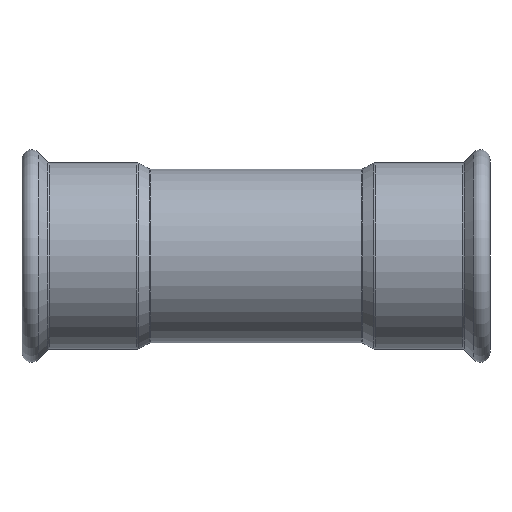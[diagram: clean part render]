
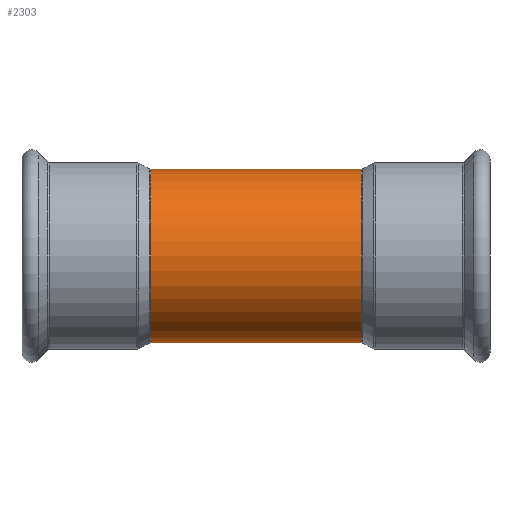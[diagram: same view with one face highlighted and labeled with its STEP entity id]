
A CAD part, front view. The second image highlights one B-rep face of the part: STEP entity #2303.
In plain terms, the highlighted cylindrical face has radius 26.7 mm (diameter 53.4 mm), a partial arc.
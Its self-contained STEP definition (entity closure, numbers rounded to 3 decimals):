
#158 = VECTOR ( 'NONE', #3409, 1000. ) ;
#165 = AXIS2_PLACEMENT_3D ( 'NONE', #168, #3778, #3470 ) ;
#168 = CARTESIAN_POINT ( 'NONE',  ( -32.377, 0., 0. ) ) ;
#196 = DIRECTION ( 'NONE',  ( -1., 0., 0. ) ) ;
#275 = EDGE_CURVE ( 'NONE', #3549, #1547, #2310, .T. ) ;
#485 = LINE ( 'NONE', #2852, #1088 ) ;
#527 = CARTESIAN_POINT ( 'NONE',  ( 32.377, 0., 26.7 ) ) ;
#665 = AXIS2_PLACEMENT_3D ( 'NONE', #3213, #196, #2598 ) ;
#698 = CARTESIAN_POINT ( 'NONE',  ( -32.377, 0., -26.7 ) ) ;
#703 = CARTESIAN_POINT ( 'NONE',  ( 0., 0., 26.7 ) ) ;
#704 = EDGE_CURVE ( 'NONE', #1547, #934, #1079, .T. ) ;
#832 = DIRECTION ( 'NONE',  ( -1., 0., 0. ) ) ;
#906 = EDGE_CURVE ( 'NONE', #934, #1023, #2243, .T. ) ;
#934 = VERTEX_POINT ( 'NONE', #1234 ) ;
#1018 = CARTESIAN_POINT ( 'NONE',  ( 32.377, 0., 0. ) ) ;
#1023 = VERTEX_POINT ( 'NONE', #698 ) ;
#1079 = LINE ( 'NONE', #703, #158 ) ;
#1088 = VECTOR ( 'NONE', #832, 1000. ) ;
#1201 = EDGE_LOOP ( 'NONE', ( #1270, #3395, #2849, #1958 ) ) ;
#1234 = CARTESIAN_POINT ( 'NONE',  ( -32.377, 0., 26.7 ) ) ;
#1266 = CYLINDRICAL_SURFACE ( 'NONE', #665, 26.7 ) ;
#1270 = ORIENTED_EDGE ( 'NONE', *, *, #1534, .F. ) ;
#1534 = EDGE_CURVE ( 'NONE', #3549, #1023, #485, .T. ) ;
#1547 = VERTEX_POINT ( 'NONE', #527 ) ;
#1886 = FACE_OUTER_BOUND ( 'NONE', #1201, .T. ) ;
#1958 = ORIENTED_EDGE ( 'NONE', *, *, #906, .T. ) ;
#2243 = CIRCLE ( 'NONE', #165, 26.7 ) ;
#2303 = ADVANCED_FACE ( 'NONE', ( #1886 ), #1266, .T. ) ;
#2310 = CIRCLE ( 'NONE', #2453, 26.7 ) ;
#2332 = DIRECTION ( 'NONE',  ( 0., 0., 1. ) ) ;
#2453 = AXIS2_PLACEMENT_3D ( 'NONE', #1018, #3357, #2332 ) ;
#2598 = DIRECTION ( 'NONE',  ( 0., 0., 1. ) ) ;
#2849 = ORIENTED_EDGE ( 'NONE', *, *, #704, .T. ) ;
#2852 = CARTESIAN_POINT ( 'NONE',  ( 0., 0., -26.7 ) ) ;
#3213 = CARTESIAN_POINT ( 'NONE',  ( 0., 0., 0. ) ) ;
#3357 = DIRECTION ( 'NONE',  ( -1., 0., 0. ) ) ;
#3395 = ORIENTED_EDGE ( 'NONE', *, *, #275, .T. ) ;
#3409 = DIRECTION ( 'NONE',  ( -1., 0., 0. ) ) ;
#3470 = DIRECTION ( 'NONE',  ( 0., 0., 1. ) ) ;
#3549 = VERTEX_POINT ( 'NONE', #3695 ) ;
#3695 = CARTESIAN_POINT ( 'NONE',  ( 32.377, 0., -26.7 ) ) ;
#3778 = DIRECTION ( 'NONE',  ( 1., 0., 0. ) ) ;
